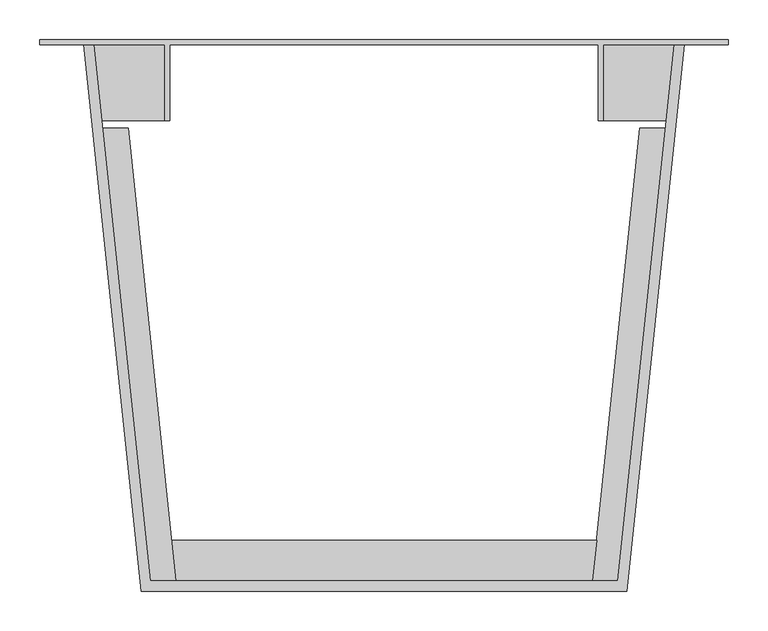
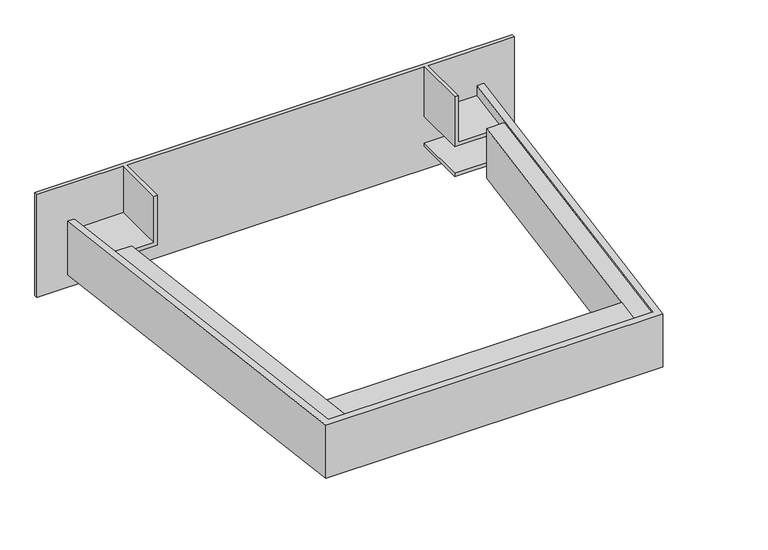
"""IFC4 building model written with IfcOpenShell, lengths in millimetres: proxy geometry, IMPRESS^TABLE 6_24in END BASE-PARTS SOLID."""

from ifc_helpers import new_model, si_unit, frame, origin, place, context, project, spatial, polyline, outline, extrude, faceted_brep, source, transform, mapped, element, save


def generic_models_ee63442a(model_context):
    return source(origin(), model_context, "Body", "SolidModel", [
        extrude(outline(polyline([(-48.2982331, 581.025), (-16.3733453, 581.025), (43.3600192, 12.7), (11.4351314, 12.7), (-48.2982331, 581.025)])), frame((0.0, 0.0, 3.175), z_axis=(0.0, 0.0, 1.0), x_axis=(1.0, 0.0, 0.0)), (0.0, 0.0, 1.0), 95.25),
        extrude(outline(polyline([(571.5792759, 63.5), (566.2399808, 12.7), (43.3600192, 12.7), (38.0207241, 63.5), (571.5792759, 63.5)])), frame((0.0, 0.0, 3.175), z_axis=(0.0, 0.0, 1.0), x_axis=(1.0, 0.0, 0.0)), (0.0, 0.0, 1.0), 95.25),
        extrude(outline(polyline([(625.9733453, 581.025), (657.8982331, 581.025), (598.1648686, 12.7), (566.2399808, 12.7), (625.9733453, 581.025)])), frame((0.0, 0.0, 3.175), z_axis=(0.0, 0.0, 1.0), x_axis=(1.0, 0.0, 0.0)), (0.0, 0.0, 1.0), 95.25),
        faceted_brep([(-127.0, 692.15, -25.4), (-127.0, 692.15, 171.45), (736.6, 692.15, 171.45), (736.6, 692.15, -25.4), (-127.0, 685.8, -25.4), (-127.0, 685.8, 171.45), (0.0, 0.0, 0.0), (609.6, 0.0, 0.0), (609.6, 0.0, 101.6), (0.0, 0.0, 101.6), (598.1648686, 12.7, 0.0), (11.4351314, 12.7, 0.0), (11.4351314, 12.7, 101.6), (598.1648686, 12.7, 101.6), (658.899351, 590.55, 76.2), (658.899351, 590.55, 82.55), (580.0105294, 590.55, 82.55), (580.0105294, 590.55, 171.45), (573.6605294, 590.55, 171.45), (573.6605294, 590.55, 76.2), (668.9105294, 685.8, 82.55), (580.0105294, 685.8, 82.55), (573.6605294, 685.8, 171.45), (573.6605294, 685.8, 76.2), (580.0105294, 685.8, 171.45), (736.6, 685.8, 171.45), (29.5894706, 685.8, 171.45), (29.5894706, 590.55, 171.45), (35.9394706, 590.55, 171.45), (35.9394706, 685.8, 171.45), (668.9105294, 685.8, 76.2), (-49.299351, 590.55, 19.05), (-59.3105294, 685.8, 19.05), (35.9394706, 685.8, 19.05), (35.9394706, 590.55, 19.05), (35.9394706, 685.8, 25.4), (35.9394706, 590.55, 25.4), (-59.3105294, 685.8, 25.4), (-49.299351, 590.55, 25.4), (658.899351, 590.55, 25.4), (668.9105294, 685.8, 25.4), (573.6605294, 685.8, 25.4), (573.6605294, 590.55, 25.4), (573.6605294, 685.8, 19.05), (573.6605294, 590.55, 19.05), (668.9105294, 685.8, 19.05), (658.899351, 590.55, 19.05), (-49.299351, 590.55, 82.55), (-49.299351, 590.55, 76.2), (35.9394706, 590.55, 76.2), (29.5894706, 590.55, 82.55), (-59.3105294, 685.8, 76.2), (35.9394706, 685.8, 76.2), (-59.3105294, 685.8, 82.55), (29.5894706, 685.8, 82.55), (-59.3105294, 685.8, 101.6), (-59.3105294, 685.8, 0.0), (-72.0804845, 685.8, 0.0), (-72.0804845, 685.8, 101.6), (736.6, 685.8, -25.4), (668.9105294, 685.8, 101.6), (681.6804845, 685.8, 101.6), (681.6804845, 685.8, 0.0), (668.9105294, 685.8, 0.0)], [[[0, 1, 2, 3]], [[1, 0, 4, 5]], [[6, 7, 8, 9]], [[10, 11, 12, 13]], [[14, 15, 16, 17, 18, 19]], [[15, 20, 21, 16]], [[22, 23, 19, 18]], [[22, 18, 17, 24, 25, 2, 1, 5, 26, 27, 28, 29]], [[21, 24, 17, 16]], [[30, 14, 19, 23]], [[31, 32, 33, 34]], [[33, 35, 36, 34]], [[37, 38, 36, 35]], [[38, 31, 34, 36]], [[39, 40, 41, 42]], [[41, 43, 44, 42]], [[45, 46, 44, 43]], [[46, 39, 42, 44]], [[47, 48, 49, 28, 27, 50]], [[48, 51, 52, 49]], [[53, 47, 50, 54]], [[26, 54, 50, 27]], [[52, 29, 28, 49]], [[32, 31, 38, 37, 51, 48, 47, 53, 55, 12, 11, 56]], [[30, 23, 22, 29, 52, 51, 37, 35, 33, 32, 56, 57, 58, 55, 53, 54, 26, 5, 4, 59, 25, 24, 21, 20, 60, 61, 62, 63, 45, 43, 41, 40]], [[59, 4, 0, 3]], [[25, 59, 3, 2]], [[7, 62, 61, 8]], [[57, 6, 9, 58]], [[14, 30, 40, 39, 46, 45, 63, 10, 13, 60, 20, 15]], [[61, 60, 13, 12, 55, 58, 9, 8]], [[63, 62, 7, 6, 57, 56, 11, 10]]]),
    ])


if __name__ == "__main__":
    model = new_model("IFC4")
    model_context = context("Model", 3, world=origin())
    ifc_project = project(units=[si_unit("LENGTHUNIT", "METRE", prefix="MILLI")], contexts=[model_context])
    site = spatial("IfcSite", under=ifc_project)
    building = spatial("IfcBuilding", under=site)
    placement = place(None, origin())
    generic_models_shape = generic_models_ee63442a(model_context)
    element("IfcBuildingElementProxy", 1, Name="IMPRESS^TABLE 6_24in END BASE-PARTS SOLID", ObjectType="IMPRESS^TABLE 6_24in END BASE-PARTS SOLID", at=placement, inside=building, context=model_context, shape_type="MappedRepresentation", body=[
        mapped(generic_models_shape, transform((0.0, 0.0, 0.0), x_axis=(1.0, 0.0, 0.0), y_axis=(0.0, 1.0, 0.0), z_axis=(0.0, 0.0, 1.0))),
    ])
    save(model, "model.ifc")
